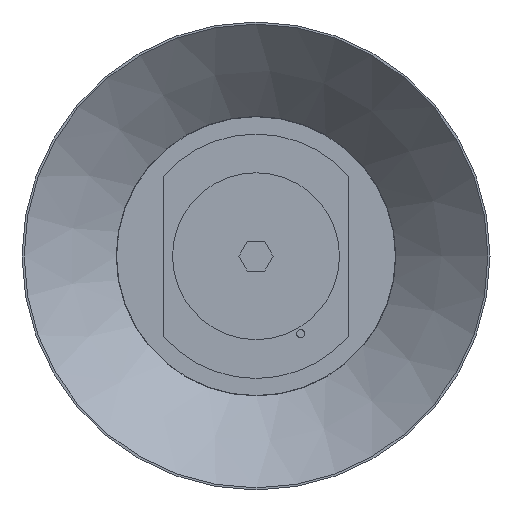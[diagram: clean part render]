
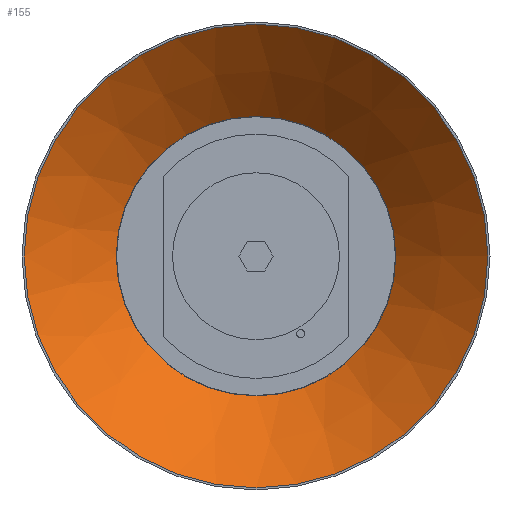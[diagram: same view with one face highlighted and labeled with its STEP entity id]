
A CAD part, top view. The second image highlights one B-rep face of the part: STEP entity #155.
In plain terms, the highlighted conical face has half-angle 45.939 degrees and reference radius 62.281 mm.
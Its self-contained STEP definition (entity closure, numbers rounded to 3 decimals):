
#84=CARTESIAN_POINT('',(46.781,0.0,17.));
#85=VERTEX_POINT('',#84);
#86=CARTESIAN_POINT('',(0.0,0.0,17.));
#87=DIRECTION('',(0.0,0.0,1.0));
#88=DIRECTION('',(1.0,0.0,0.0));
#89=AXIS2_PLACEMENT_3D('',#86,#87,#88);
#90=CIRCLE('',#89,46.781);
#91=EDGE_CURVE('',#85,#85,#90,.T.);
#132=CARTESIAN_POINT('',(77.781,0.0,47.));
#133=VERTEX_POINT('',#132);
#134=CARTESIAN_POINT('',(0.0,0.0,47.));
#135=DIRECTION('',(0.0,0.0,1.0));
#136=DIRECTION('',(1.0,0.0,0.0));
#137=AXIS2_PLACEMENT_3D('',#134,#135,#136);
#138=CIRCLE('',#137,77.781);
#139=EDGE_CURVE('',#133,#133,#138,.T.);
#144=CARTESIAN_POINT('',(0.0,0.0,32.));
#145=DIRECTION('',(0.0,0.0,1.0));
#146=DIRECTION('',(1.0,0.0,0.0));
#147=AXIS2_PLACEMENT_3D('',#144,#145,#146);
#148=CONICAL_SURFACE('',#147,62.281,45.939);
#149=ORIENTED_EDGE('',*,*,#91,.F.);
#150=EDGE_LOOP('',(#149));
#151=FACE_OUTER_BOUND('',#150,.T.);
#152=ORIENTED_EDGE('',*,*,#139,.T.);
#153=EDGE_LOOP('',(#152));
#154=FACE_BOUND('',#153,.T.);
#155=ADVANCED_FACE('',(#151,#154),#148,.F.);
